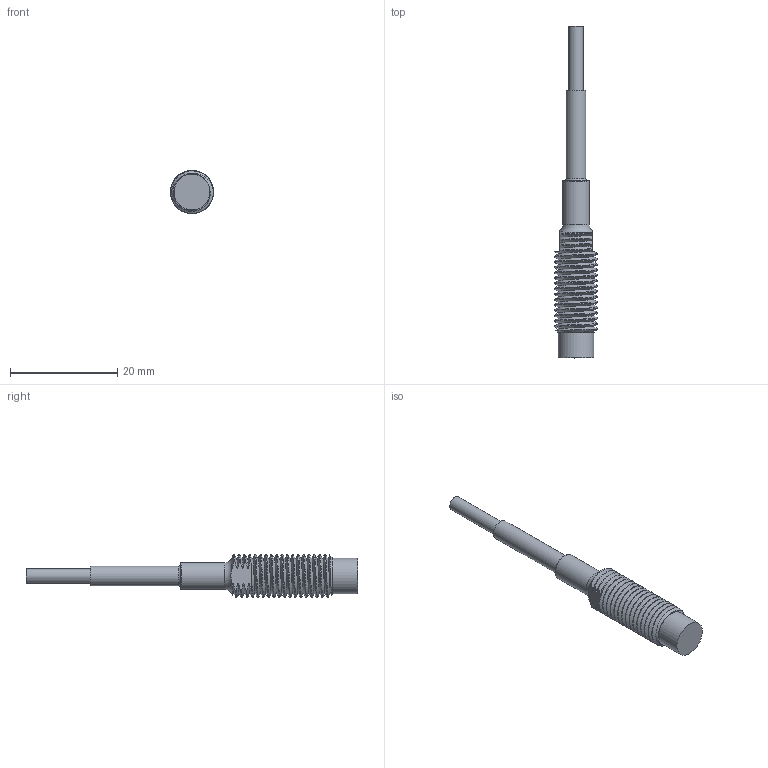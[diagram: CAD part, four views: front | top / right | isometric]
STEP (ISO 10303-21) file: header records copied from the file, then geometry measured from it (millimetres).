
FILE_DESCRIPTION( ( 'STEP AP214' ), '1' );
FILE_NAME( 'N:/Engineering/CAD_Solid/Wirbelstrom/Wirbelstromsensoren/T2/T2_G_KA_gew.stp', '2011-04-05T15:02:05', ( ' ' ), ( ' ' ), 'XStep 1.0', ' ', ' ' );
FILE_SCHEMA( ( 'CONFIG_CONTROL_DESIGN) ( )' ) );
Length unit declared in the file: metre
Products named in the file (4): 1; 2; 3; 4
Bounding box: 8 x 61.81 x 8 mm (x, y, z)
Surface area: 1747.7 mm2 (no closed solid volume)
Topology: 0 solids, 55 shells, 55 faces, 278 edges, 268 vertices
Faces by surface type: bspline 25, cylinder 14, plane 11, torus 3, cone 2
Full cylindrical faces by diameter (mm): 1 x1, 2.7 x1, 3.7 x1, 5 x2, 6.7 x1
Entity records: 37645 total; most frequent: CARTESIAN_POINT 36060, ORIENTED_EDGE 266, EDGE_CURVE 266, VERTEX_POINT 266, DIRECTION 178, B_SPLINE_CURVE_WITH_KNOTS 127, AXIS2_PLACEMENT_3D 71, FACE_BOUND 68
